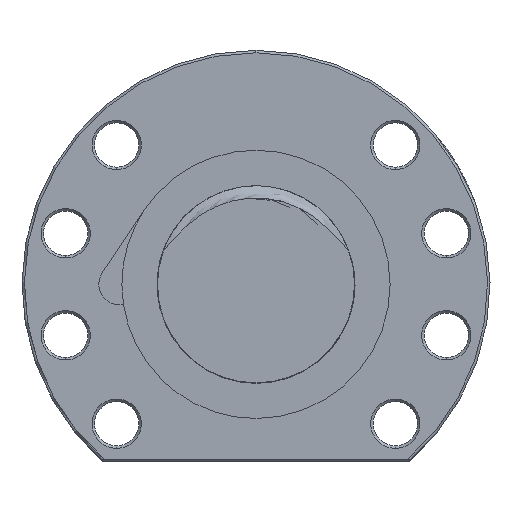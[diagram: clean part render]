
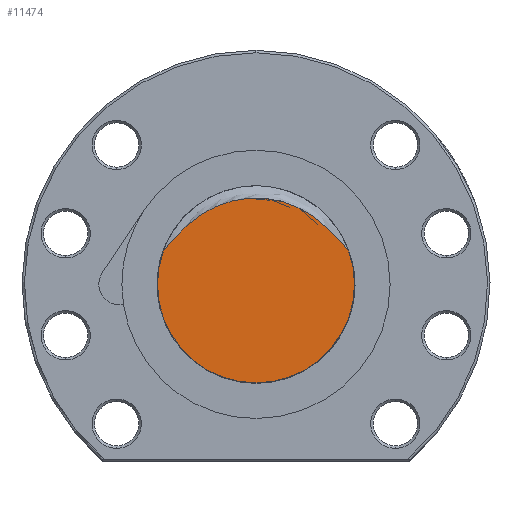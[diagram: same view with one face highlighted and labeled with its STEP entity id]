
A CAD part, left-side view. The second image highlights one B-rep face of the part: STEP entity #11474.
In plain terms, the highlighted planar face has unit normal (-1, 0, 0).
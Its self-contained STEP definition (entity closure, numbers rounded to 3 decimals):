
#2461 = CARTESIAN_POINT ( 'NONE',  ( -188., 18.82, 6.767 ) ) ;
#2462 = CARTESIAN_POINT ( 'NONE',  ( -188., 18.642, 6.921 ) ) ;
#2463 = CARTESIAN_POINT ( 'NONE',  ( -188., 18.477, 7.09 ) ) ;
#2464 = CARTESIAN_POINT ( 'NONE',  ( -188., 18.156, 7.435 ) ) ;
#2465 = CARTESIAN_POINT ( 'NONE',  ( -188., 18., 7.612 ) ) ;
#2466 = CARTESIAN_POINT ( 'NONE',  ( -188., 17.537, 8.147 ) ) ;
#2467 = CARTESIAN_POINT ( 'NONE',  ( -188., 17.234, 8.509 ) ) ;
#2468 = CARTESIAN_POINT ( 'NONE',  ( -188., 16.314, 9.584 ) ) ;
#2469 = CARTESIAN_POINT ( 'NONE',  ( -188., 15.684, 10.287 ) ) ;
#2470 = CARTESIAN_POINT ( 'NONE',  ( -188., 14.362, 11.619 ) ) ;
#2471 = CARTESIAN_POINT ( 'NONE',  ( -188., 13.671, 12.249 ) ) ;
#2472 = CARTESIAN_POINT ( 'NONE',  ( -188., 12.578, 13.131 ) ) ;
#2473 = CARTESIAN_POINT ( 'NONE',  ( -188., 12.204, 13.414 ) ) ;
#2474 = CARTESIAN_POINT ( 'NONE',  ( -188., 11.436, 13.957 ) ) ;
#2475 = CARTESIAN_POINT ( 'NONE',  ( -188., 11.041, 14.218 ) ) ;
#2476 = CARTESIAN_POINT ( 'NONE',  ( -188., 9.834, 14.961 ) ) ;
#2477 = CARTESIAN_POINT ( 'NONE',  ( -188., 9.005, 15.399 ) ) ;
#2478 = CARTESIAN_POINT ( 'NONE',  ( -188., 7.301, 16.158 ) ) ;
#2479 = CARTESIAN_POINT ( 'NONE',  ( -188., 6.425, 16.48 ) ) ;
#2480 = CARTESIAN_POINT ( 'NONE',  ( -188., 4.624, 17.001 ) ) ;
#2481 = CARTESIAN_POINT ( 'NONE',  ( -188., 3.691, 17.2 ) ) ;
#2482 = CARTESIAN_POINT ( 'NONE',  ( -188., 1.83, 17.46 ) ) ;
#2483 = CARTESIAN_POINT ( 'NONE',  ( -188., 0.898, 17.524 ) ) ;
#2484 = CARTESIAN_POINT ( 'NONE',  ( -188., -0.972, 17.522 ) ) ;
#2485 = CARTESIAN_POINT ( 'NONE',  ( -188., -1.912, 17.455 ) ) ;
#2486 = CARTESIAN_POINT ( 'NONE',  ( -188., -3.786, 17.183 ) ) ;
#2487 = CARTESIAN_POINT ( 'NONE',  ( -188., -4.702, 16.98 ) ) ;
#2488 = CARTESIAN_POINT ( 'NONE',  ( -188., -6.496, 16.454 ) ) ;
#2489 = CARTESIAN_POINT ( 'NONE',  ( -188., -7.374, 16.129 ) ) ;
#2490 = CARTESIAN_POINT ( 'NONE',  ( -188., -8.661, 15.55 ) ) ;
#2491 = CARTESIAN_POINT ( 'NONE',  ( -188., -9.088, 15.341 ) ) ;
#2492 = CARTESIAN_POINT ( 'NONE',  ( -188., -9.92, 14.897 ) ) ;
#2493 = CARTESIAN_POINT ( 'NONE',  ( -188., -10.326, 14.662 ) ) ;
#2494 = CARTESIAN_POINT ( 'NONE',  ( -188., -12.307, 13.429 ) ) ;
#2495 = CARTESIAN_POINT ( 'NONE',  ( -188., -13.735, 12.251 ) ) ;
#2496 = CARTESIAN_POINT ( 'NONE',  ( -188., -15.701, 10.27 ) ) ;
#2497 = CARTESIAN_POINT ( 'NONE',  ( -188., -16.326, 9.573 ) ) ;
#2498 = CARTESIAN_POINT ( 'NONE',  ( -188., -17.242, 8.502 ) ) ;
#2499 = CARTESIAN_POINT ( 'NONE',  ( -188., -17.543, 8.142 ) ) ;
#2500 = CARTESIAN_POINT ( 'NONE',  ( -188., -18.004, 7.609 ) ) ;
#2501 = CARTESIAN_POINT ( 'NONE',  ( -188., -18.159, 7.432 ) ) ;
#2502 = CARTESIAN_POINT ( 'NONE',  ( -188., -18.478, 7.088 ) ) ;
#2503 = CARTESIAN_POINT ( 'NONE',  ( -188., -18.643, 6.919 ) ) ;
#2504 = CARTESIAN_POINT ( 'NONE',  ( -188., -18.821, 6.765 ) ) ;
#2505 = B_SPLINE_CURVE_WITH_KNOTS ( 'NONE', 3,
 ( #2504, #2503, #2502, #2501, #2500, #2499, #2498, #2497, #2496, #2495, #2494, #2493, #2492, #2491, #2490, #2489, #2488, #2487, #2486, #2485, #2484, #2483, #2482, #2481, #2480, #2479, #2478, #2477, #2476, #2475, #2474, #2473, #2472, #2471, #2470, #2469, #2468, #2467, #2466, #2465, #2464, #2463, #2462, #2461 ),
 .UNSPECIFIED., .F., .F.,
 ( 4, 2, 2, 2, 2, 2, 2, 2, 2, 2, 2, 2, 2, 2, 2, 2, 2, 2, 2, 2, 2, 4 ),
 ( 0.018, 0.018, 0.019, 0.02, 0.023, 0.029, 0.03, 0.031, 0.034, 0.037, 0.04, 0.042, 0.045, 0.048, 0.051, 0.052, 0.053, 0.056, 0.059, 0.06, 0.061, 0.062 ),
 .UNSPECIFIED. ) ;
#2506 = DIRECTION ( 'NONE',  ( 0., 0., -1. ) ) ;
#2507 = DIRECTION ( 'NONE',  ( 1., 0., 0. ) ) ;
#2508 = CARTESIAN_POINT ( 'NONE',  ( -188., 0., 0. ) ) ;
#2509 = AXIS2_PLACEMENT_3D ( 'NONE', #2508, #2507, #2506 ) ;
#2516 = PLANE ( 'NONE',  #2509 ) ;
#2521 = FACE_OUTER_BOUND ( 'NONE', #11475, .T. ) ;
#7693 = DIRECTION ( 'NONE',  ( 0., 1., 0. ) ) ;
#8256 = DIRECTION ( 'NONE',  ( 1., 0., 0. ) ) ;
#8257 = AXIS2_PLACEMENT_3D ( 'NONE', #8265, #8256, #7693 ) ;
#8258 = CIRCLE ( 'NONE', #8257, 20. ) ;
#8265 = CARTESIAN_POINT ( 'NONE',  ( -188., 0., 0. ) ) ;
#8725 = CARTESIAN_POINT ( 'NONE',  ( -188., -18.821, 6.765 ) ) ;
#11015 = VERTEX_POINT ( 'NONE', #13452 ) ;
#11024 = VERTEX_POINT ( 'NONE', #13476 ) ;
#11026 = EDGE_CURVE ( 'NONE', #11024, #11015, #13474, .T. ) ;
#11474 = ADVANCED_FACE ( 'NONE', ( #2521 ), #2516, .F. ) ;
#11475 = EDGE_LOOP ( 'NONE', ( #11476, #11477, #11490 ) ) ;
#11476 = ORIENTED_EDGE ( 'NONE', *, *, #17210, .F. ) ;
#11477 = ORIENTED_EDGE ( 'NONE', *, *, #11478, .T. ) ;
#11478 = EDGE_CURVE ( 'NONE', #17211, #11015, #2505, .T. ) ;
#11490 = ORIENTED_EDGE ( 'NONE', *, *, #11026, .F. ) ;
#13452 = CARTESIAN_POINT ( 'NONE',  ( -188., 18.82, 6.767 ) ) ;
#13470 = DIRECTION ( 'NONE',  ( 0., 1., 0. ) ) ;
#13471 = DIRECTION ( 'NONE',  ( 1., 0., 0. ) ) ;
#13472 = CARTESIAN_POINT ( 'NONE',  ( -188., 0., 0. ) ) ;
#13473 = AXIS2_PLACEMENT_3D ( 'NONE', #13472, #13471, #13470 ) ;
#13474 = CIRCLE ( 'NONE', #13473, 20. ) ;
#13476 = CARTESIAN_POINT ( 'NONE',  ( -188., 0., -20. ) ) ;
#17210 = EDGE_CURVE ( 'NONE', #17211, #11024, #8258, .T. ) ;
#17211 = VERTEX_POINT ( 'NONE', #8725 ) ;
